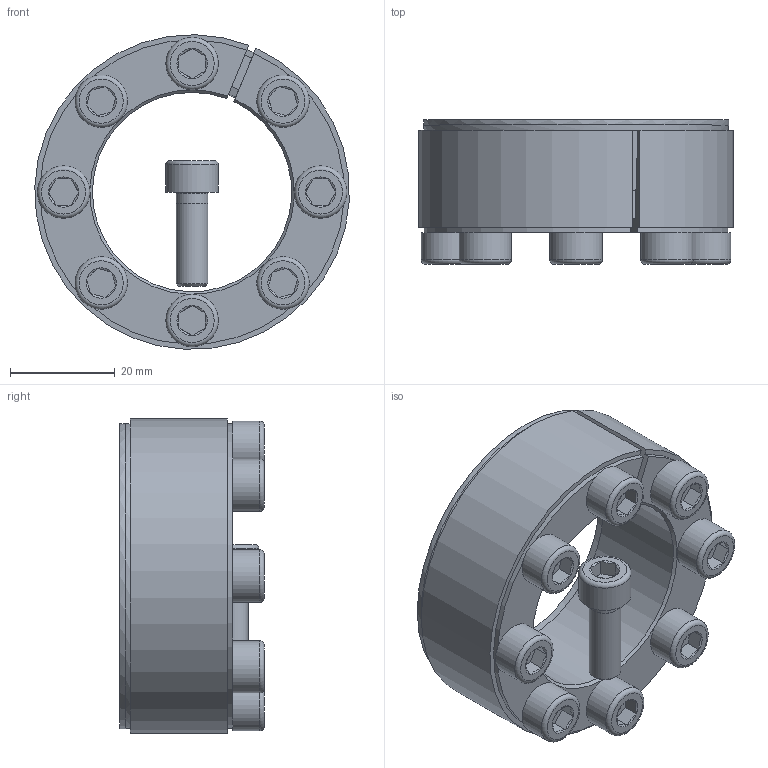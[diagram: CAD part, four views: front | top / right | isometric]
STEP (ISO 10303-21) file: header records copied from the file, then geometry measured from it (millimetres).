
FILE_DESCRIPTION( ( 'Unknown' ), '1' );
FILE_NAME( 'C:/Dokumente und Einstellungen/Sven/Desktop/homepage/cad - homepage/KBS52/KBS 52 - 38 x 60.stp', 'Unknown', ( 'Unknown' ), ( 'Unknown' ), 'XStep 1.0', 'Unknown', ' ' );
FILE_SCHEMA( ( 'automotive_design' ) );
Length unit declared in the file: millimetre
Products named in the file (3): Assem1; KBS 52 - 38 x 60; ISO EN DIN 4762 M6x18
Bounding box: 59.93 x 27.5 x 59.96 mm (x, y, z)
Volume: 69464.8 mm3; surface area: 32500.6 mm2
Topology: 11 solids, 11 shells, 281 faces, 553 edges, 328 vertices
Faces by surface type: plane 134, cone 69, cylinder 60, torus 18
Full cylindrical faces by diameter (mm): 5 x9, 6 x34, 10 x9, 58.175 x2
Entity records: 1741 total; most frequent: CARTESIAN_POINT 283, DIRECTION 263, ORIENTED_EDGE 196, AXIS2_PLACEMENT_3D 110, EDGE_CURVE 98, EDGE_LOOP 92, VERTEX_POINT 70, FACE_OUTER_BOUND 68
